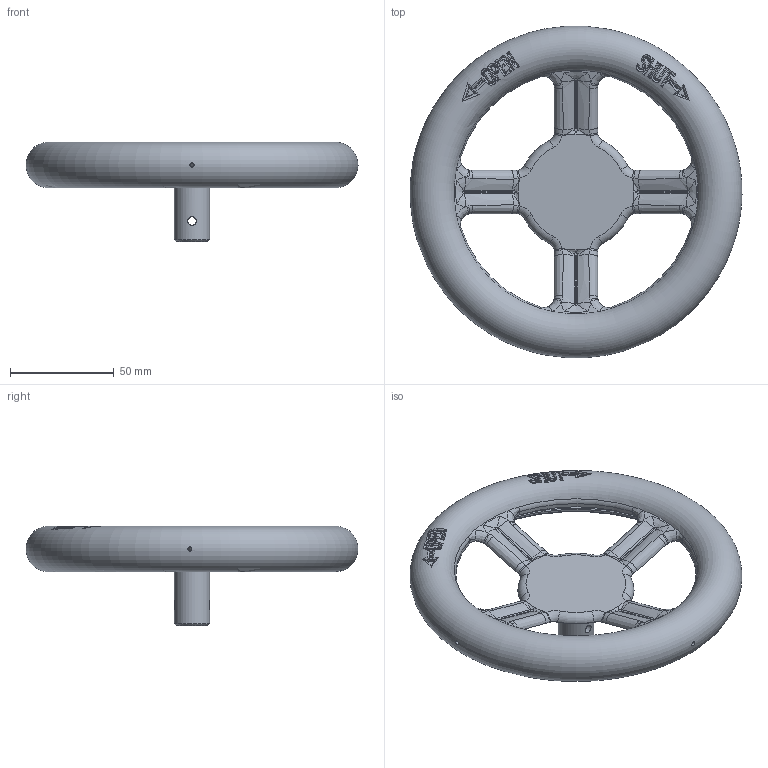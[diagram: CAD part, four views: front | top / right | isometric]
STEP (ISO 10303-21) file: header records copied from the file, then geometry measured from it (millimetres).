
FILE_DESCRIPTION( ( 'Unknown' ), '1' );
FILE_NAME( 'M:/Current Drawings/0000/MODELS 3D FOR CUSTOMERS/PS160-12.stp', 'Unknown', ( 'Unknown' ), ( 'Unknown' ), 'PSStep 10.1', 'Unknown', ' ' );
FILE_SCHEMA( ( 'automotive_design' ) );
Length unit declared in the file: millimetre
Products named in the file (1): PS160-12 Bush
Bounding box: 159.99 x 159.99 x 48 mm (x, y, z)
Volume: 55793.9 mm3; surface area: 58020.7 mm2
Topology: 1 solids, 1 shells, 454 faces, 1259 edges, 808 vertices
Faces by surface type: bspline 209, plane 95, cylinder 79, torus 37, cone 22, extrusion 11, sphere 1
Full cylindrical faces by diameter (mm): 2 x4, 4.1 x2, 12 x1, 17 x1, 138 x1
Entity records: 54536 total; most frequent: CARTESIAN_POINT 41375, ORIENTED_EDGE 2452, DIRECTION 1332, EDGE_CURVE 1226, VERTEX_POINT 797, B_SPLINE_CURVE_WITH_KNOTS 711, AXIS2_PLACEMENT_3D 560, EDGE_LOOP 497
